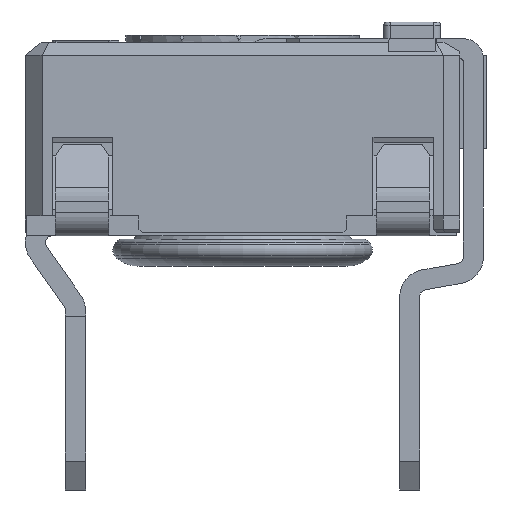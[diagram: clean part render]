
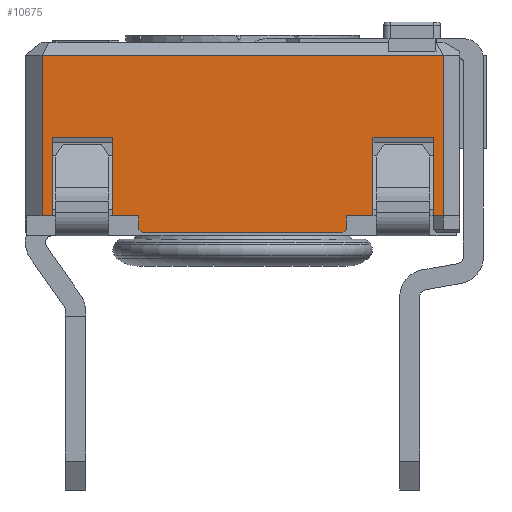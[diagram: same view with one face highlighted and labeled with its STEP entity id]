
A CAD part, left-side view. The second image highlights one B-rep face of the part: STEP entity #10675.
In plain terms, the highlighted planar face has unit normal (-1, 0, 0).
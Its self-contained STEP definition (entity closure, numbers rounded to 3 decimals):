
#664=FACE_OUTER_BOUND('',#1216,.T.);
#1216=EDGE_LOOP('',(#9138,#9139,#9140,#9141,#9142,#9143,#9144,#9145,#9146,
#9147,#9148,#9149,#9150,#9151,#9152,#9153,#9154,#9155));
#1887=LINE('',#16181,#3098);
#2006=LINE('',#16444,#3217);
#2012=LINE('',#16457,#3223);
#2018=LINE('',#16468,#3229);
#2024=LINE('',#16479,#3235);
#2029=LINE('',#16489,#3240);
#2032=LINE('',#16495,#3243);
#2064=LINE('',#16557,#3275);
#2088=LINE('',#16612,#3299);
#2100=LINE('',#16632,#3311);
#2102=LINE('',#16637,#3313);
#2111=LINE('',#16656,#3322);
#2113=LINE('',#16659,#3324);
#2133=LINE('',#16700,#3344);
#2313=LINE('',#17155,#3524);
#2326=LINE('',#17179,#3537);
#2327=LINE('',#17181,#3538);
#2328=LINE('',#17183,#3539);
#3098=VECTOR('',#13067,10.);
#3217=VECTOR('',#13252,10.);
#3223=VECTOR('',#13260,10.);
#3229=VECTOR('',#13266,10.);
#3235=VECTOR('',#13274,10.);
#3240=VECTOR('',#13281,10.);
#3243=VECTOR('',#13286,10.);
#3275=VECTOR('',#13328,10.);
#3299=VECTOR('',#13380,10.);
#3311=VECTOR('',#13400,10.);
#3313=VECTOR('',#13404,10.);
#3322=VECTOR('',#13425,10.);
#3324=VECTOR('',#13429,10.);
#3344=VECTOR('',#13463,10.);
#3524=VECTOR('',#13893,10.);
#3537=VECTOR('',#13914,10.);
#3538=VECTOR('',#13917,10.);
#3539=VECTOR('',#13920,10.);
#4539=VERTEX_POINT('',#16178);
#4540=VERTEX_POINT('',#16180);
#4650=VERTEX_POINT('',#16441);
#4651=VERTEX_POINT('',#16443);
#4655=VERTEX_POINT('',#16453);
#4657=VERTEX_POINT('',#16456);
#4662=VERTEX_POINT('',#16466);
#4665=VERTEX_POINT('',#16476);
#4669=VERTEX_POINT('',#16486);
#4672=VERTEX_POINT('',#16493);
#4695=VERTEX_POINT('',#16544);
#4697=VERTEX_POINT('',#16556);
#4714=VERTEX_POINT('',#16608);
#4719=VERTEX_POINT('',#16634);
#4724=VERTEX_POINT('',#16655);
#4860=VERTEX_POINT('',#17152);
#4861=VERTEX_POINT('',#17154);
#4868=VERTEX_POINT('',#17177);
#5776=EDGE_CURVE('',#4540,#4539,#1887,.T.);
#5911=EDGE_CURVE('',#4651,#4650,#2006,.T.);
#5917=EDGE_CURVE('',#4657,#4655,#2012,.T.);
#5923=EDGE_CURVE('',#4650,#4662,#2018,.T.);
#5929=EDGE_CURVE('',#4655,#4665,#2024,.T.);
#5934=EDGE_CURVE('',#4665,#4669,#2029,.T.);
#5937=EDGE_CURVE('',#4669,#4672,#2032,.T.);
#5969=EDGE_CURVE('',#4697,#4651,#2064,.T.);
#5999=EDGE_CURVE('',#4539,#4697,#2088,.T.);
#6011=EDGE_CURVE('',#4540,#4714,#2100,.T.);
#6013=EDGE_CURVE('',#4662,#4719,#2102,.T.);
#6022=EDGE_CURVE('',#4724,#4695,#2111,.T.);
#6024=EDGE_CURVE('',#4714,#4695,#2113,.T.);
#6045=EDGE_CURVE('',#4672,#4724,#2133,.T.);
#6268=EDGE_CURVE('',#4860,#4861,#2313,.T.);
#6281=EDGE_CURVE('',#4868,#4719,#2326,.T.);
#6282=EDGE_CURVE('',#4868,#4861,#2327,.T.);
#6283=EDGE_CURVE('',#4860,#4657,#2328,.T.);
#9138=ORIENTED_EDGE('',*,*,#6281,.F.);
#9139=ORIENTED_EDGE('',*,*,#6282,.T.);
#9140=ORIENTED_EDGE('',*,*,#6268,.F.);
#9141=ORIENTED_EDGE('',*,*,#6283,.T.);
#9142=ORIENTED_EDGE('',*,*,#5917,.T.);
#9143=ORIENTED_EDGE('',*,*,#5929,.T.);
#9144=ORIENTED_EDGE('',*,*,#5934,.T.);
#9145=ORIENTED_EDGE('',*,*,#5937,.T.);
#9146=ORIENTED_EDGE('',*,*,#6045,.T.);
#9147=ORIENTED_EDGE('',*,*,#6022,.T.);
#9148=ORIENTED_EDGE('',*,*,#6024,.F.);
#9149=ORIENTED_EDGE('',*,*,#6011,.F.);
#9150=ORIENTED_EDGE('',*,*,#5776,.T.);
#9151=ORIENTED_EDGE('',*,*,#5999,.T.);
#9152=ORIENTED_EDGE('',*,*,#5969,.T.);
#9153=ORIENTED_EDGE('',*,*,#5911,.T.);
#9154=ORIENTED_EDGE('',*,*,#5923,.T.);
#9155=ORIENTED_EDGE('',*,*,#6013,.T.);
#9942=PLANE('',#11479);
#10675=ADVANCED_FACE('',(#664),#9942,.T.);
#11479=AXIS2_PLACEMENT_3D('',#17364,#14122,#14123);
#13067=DIRECTION('',(0.,-1.,0.));
#13252=DIRECTION('',(0.,0.,-1.));
#13260=DIRECTION('',(0.,-1.,0.));
#13266=DIRECTION('',(0.,-1.,0.));
#13274=DIRECTION('',(0.,0.,1.));
#13281=DIRECTION('',(0.,-1.,0.));
#13286=DIRECTION('',(0.,0.,-1.));
#13328=DIRECTION('',(0.,-1.,0.));
#13380=DIRECTION('',(0.,0.,1.));
#13400=DIRECTION('',(0.,0.,1.));
#13404=DIRECTION('',(0.,0.,-1.));
#13425=DIRECTION('',(0.,0.,1.));
#13429=DIRECTION('',(0.,-1.,0.));
#13463=DIRECTION('',(0.,-1.,0.));
#13893=DIRECTION('',(0.,0.707,-0.707));
#13914=DIRECTION('',(0.,0.707,0.707));
#13917=DIRECTION('',(0.,-1.,0.));
#13920=DIRECTION('',(0.,0.,1.));
#14122=DIRECTION('center_axis',(-1.,0.,0.));
#14123=DIRECTION('ref_axis',(0.,0.,1.));
#16178=CARTESIAN_POINT('',(-14.26,-8.882,0.25));
#16180=CARTESIAN_POINT('',(-14.26,-8.732,0.25));
#16181=CARTESIAN_POINT('',(-14.26,-13.244,0.25));
#16441=CARTESIAN_POINT('',(-14.26,-9.782,0.25));
#16443=CARTESIAN_POINT('',(-14.26,-9.782,1.425));
#16444=CARTESIAN_POINT('',(-14.26,-9.782,0.387));
#16453=CARTESIAN_POINT('',(-14.26,-13.682,0.25));
#16456=CARTESIAN_POINT('',(-14.26,-13.282,0.25));
#16457=CARTESIAN_POINT('',(-14.26,-13.244,0.25));
#16466=CARTESIAN_POINT('',(-14.26,-10.182,0.25));
#16468=CARTESIAN_POINT('',(-14.26,-13.244,0.25));
#16476=CARTESIAN_POINT('',(-14.26,-13.682,1.425));
#16479=CARTESIAN_POINT('',(-14.26,-13.682,0.387));
#16486=CARTESIAN_POINT('',(-14.26,-14.582,1.425));
#16489=CARTESIAN_POINT('',(-14.26,-14.657,1.425));
#16493=CARTESIAN_POINT('',(-14.26,-14.582,0.25));
#16495=CARTESIAN_POINT('',(-14.26,-14.582,0.387));
#16544=CARTESIAN_POINT('',(-14.26,-14.732,2.655));
#16556=CARTESIAN_POINT('',(-14.26,-8.882,1.425));
#16557=CARTESIAN_POINT('',(-14.26,-11.807,1.425));
#16608=CARTESIAN_POINT('',(-14.26,-8.732,2.655));
#16612=CARTESIAN_POINT('',(-14.26,-8.882,0.387));
#16632=CARTESIAN_POINT('',(-14.26,-8.732,0.));
#16634=CARTESIAN_POINT('',(-14.26,-10.182,0.05));
#16637=CARTESIAN_POINT('',(-14.26,-10.182,0.));
#16655=CARTESIAN_POINT('',(-14.26,-14.732,0.25));
#16656=CARTESIAN_POINT('',(-14.26,-14.732,0.));
#16659=CARTESIAN_POINT('',(-14.26,-13.232,2.655));
#16700=CARTESIAN_POINT('',(-14.26,-13.244,0.25));
#17152=CARTESIAN_POINT('',(-14.26,-13.282,0.05));
#17154=CARTESIAN_POINT('',(-14.26,-13.232,0.));
#17155=CARTESIAN_POINT('',(-14.26,-13.619,0.388));
#17177=CARTESIAN_POINT('',(-14.26,-10.232,0.));
#17179=CARTESIAN_POINT('',(-14.26,-11.344,-1.113));
#17181=CARTESIAN_POINT('',(-14.26,-8.732,0.));
#17183=CARTESIAN_POINT('',(-14.26,-13.282,0.));
#17364=CARTESIAN_POINT('Origin',(-14.26,-14.732,0.));
